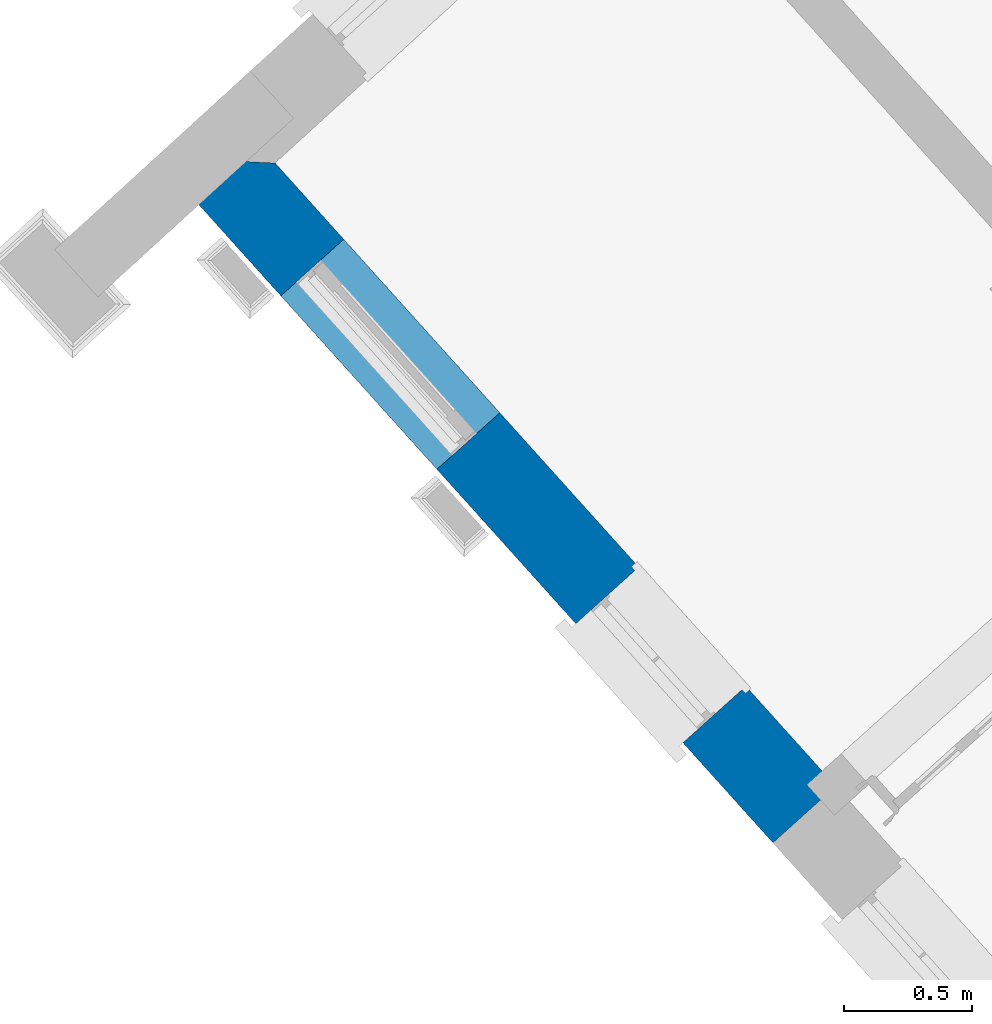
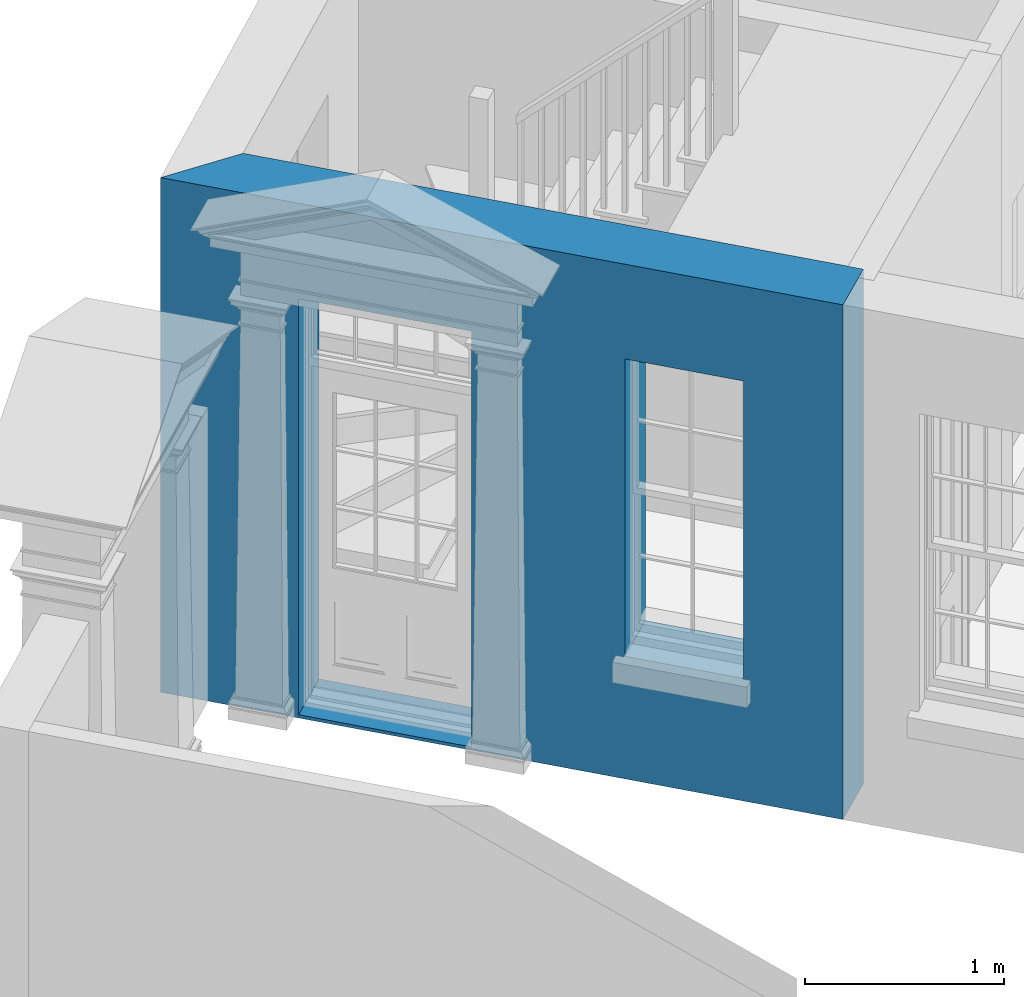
# One storey, part 3 of 7: 1 wall, 2 openings.
"""IFC4 building model written with IfcOpenShell, lengths in metres."""

from ifc_helpers import new_model, si_unit, frame, origin_with_axes, place, context, subcontext, project, spatial, polyline, outline, extrude, material, layer, layer_set, layer_usage, type_object, element, save


model = new_model("IFC4")

# Units and contexts
model_context = context("Model", 3, world=origin_with_axes())
body_context = subcontext(model_context, "Body", "Model", "MODEL_VIEW")
ifc_project = project(units=[si_unit("PLANEANGLEUNIT", "RADIAN"), si_unit("MASSUNIT", "GRAM", prefix="KILO"), si_unit("FORCEUNIT", "NEWTON", prefix="KILO"), si_unit("LENGTHUNIT", "METRE"), si_unit("AREAUNIT", "SQUARE_METRE"), si_unit("VOLUMEUNIT", "CUBIC_METRE")], contexts=[model_context, model_context])

# Sites, building, storey
site_1_placement = place(None, origin_with_axes())
site_1 = spatial("IfcSite", under=ifc_project, at=site_1_placement, Name="Tamar")
site_2_placement = place(site_1_placement, origin_with_axes())
site_2 = spatial("IfcSite", under=site_1, at=site_2_placement, Name="Site plot-7", CompositionType="ELEMENT")
building_placement = place(None, origin_with_axes())
building = spatial("IfcBuilding", under=site_2, at=building_placement, Name="Building plot-7", CompositionType="ELEMENT")
storey_placement = place(None, frame((0.0, 0.0, 26.0), z_axis=(0.0, 0.0, 1.0), x_axis=(1.0, 0.0, 0.0)))
storey = spatial("IfcBuildingStorey", under=building, at=storey_placement, Name="plot-7 0", CompositionType="ELEMENT", Elevation=26.0)

# Wall, openings
ifc_material = material(Name="Masonry")
ifc_layer = layer(ifc_material, 0.33, ventilated=False)
ifc_layer_set = layer_set([ifc_layer], Name="exterior_0.08_0.25")
ifc_layer_usage = layer_usage(ifc_layer_set, "AXIS2", "POSITIVE", -0.25)
wall_type = type_object("IfcWallType", Name="exterior_0.08_0.25", PredefinedType="SOLIDWALL", material=ifc_layer_set)
wall_placement = place(storey_placement, frame((239.471954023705, 287.134500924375, 0.0), z_axis=(0.0, 0.0, 1.0), x_axis=(0.668853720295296, -0.743394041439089, 0.0)))
wall = element("IfcWall", 1, at=wall_placement, inside=storey, type_object=wall_type, material=ifc_layer_usage, Name="exterior", context=body_context, shape_type="SweptSolid", body=[
    extrude(outline(polyline([(0.0794323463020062, 0.0799999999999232), (-0.248226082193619, -0.250000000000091), (3.34994703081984, -0.250000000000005), (3.34994703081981, 0.0800000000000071), (0.0794323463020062, 0.0799999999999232)])), origin_with_axes(), (0.0, 0.0, 1.0), 3.15),
])
opening_1_placement = place(wall_placement, frame((0.479999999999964, 0.0, 0.0199999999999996)))
element("IfcOpeningElement", 2, at=opening_1_placement, cuts=wall, Name="My Opening", ObjectType="Opening", context=body_context, shape_type="SweptSolid", body=[
    extrude(outline(polyline([(0.0, -0.26999999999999), (0.909999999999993, -0.269999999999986), (0.910000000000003, 1.09999999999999), (9.49240686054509e-15, 1.09999999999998), (0.0, -0.26999999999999)])), origin_with_axes(), (0.0, 0.0, 1.0), 2.545),
])
opening_2_placement = place(wall_placement, frame((2.19996027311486, 0.0, 0.75)))
element("IfcOpeningElement", 3, at=opening_2_placement, cuts=wall, Name="My Opening", ObjectType="Opening", context=body_context, shape_type="SweptSolid", body=[
    extrude(outline(polyline([(0.0, -0.270000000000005), (0.624999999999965, -0.269999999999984), (0.624999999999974, 1.09999999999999), (9.76996261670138e-15, 1.09999999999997), (0.0, -0.270000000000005)])), origin_with_axes(), (0.0, 0.0, 1.0), 1.82),
])

save(model, "model.ifc")
